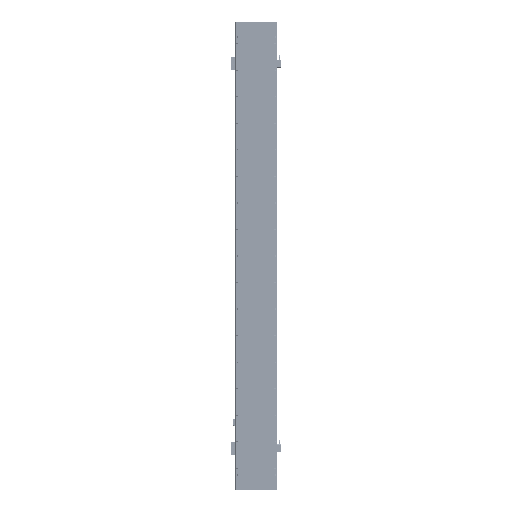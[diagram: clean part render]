
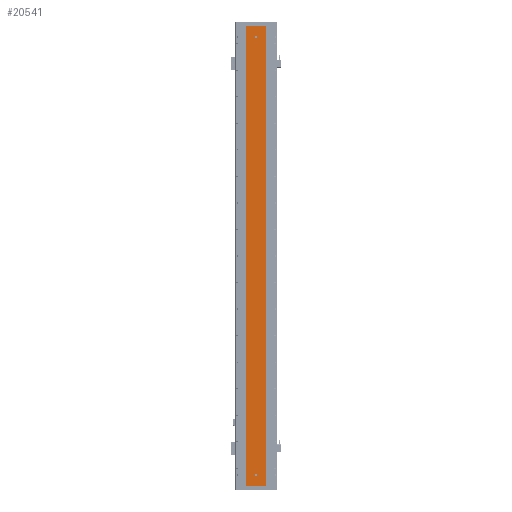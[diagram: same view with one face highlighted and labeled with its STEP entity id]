
A CAD part, front view. The second image highlights one B-rep face of the part: STEP entity #20541.
In plain terms, the highlighted planar face has unit normal (0, -1, 0).
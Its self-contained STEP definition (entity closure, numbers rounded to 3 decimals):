
#180 = VERTEX_POINT ( 'NONE', #20657 ) ;
#1358 = DIRECTION ( 'NONE',  ( 0., -1., 0. ) ) ;
#2413 = CARTESIAN_POINT ( 'NONE',  ( 45., 0., -1038. ) ) ;
#3925 = DIRECTION ( 'NONE',  ( 1., 0., 0. ) ) ;
#4166 = CARTESIAN_POINT ( 'NONE',  ( -45., 0., 1038. ) ) ;
#4543 = VERTEX_POINT ( 'NONE', #84145 ) ;
#7256 = ORIENTED_EDGE ( 'NONE', *, *, #102909, .F. ) ;
#7883 = ORIENTED_EDGE ( 'NONE', *, *, #86360, .F. ) ;
#8121 = EDGE_CURVE ( 'NONE', #31167, #180, #49314, .T. ) ;
#8909 = VECTOR ( 'NONE', #16982, 1000. ) ;
#10074 = VERTEX_POINT ( 'NONE', #98343 ) ;
#10980 = CARTESIAN_POINT ( 'NONE',  ( 4., 0., -989. ) ) ;
#12400 = FACE_BOUND ( 'NONE', #81796, .T. ) ;
#14575 = DIRECTION ( 'NONE',  ( 0., -1., 0. ) ) ;
#16982 = DIRECTION ( 'NONE',  ( 0., 0., -1. ) ) ;
#17415 = ORIENTED_EDGE ( 'NONE', *, *, #100536, .T. ) ;
#18307 = DIRECTION ( 'NONE',  ( 0., 0., 1. ) ) ;
#19812 = EDGE_CURVE ( 'NONE', #44787, #49540, #91212, .T. ) ;
#20541 = ADVANCED_FACE ( 'NONE', ( #12400, #37611, #85142 ), #118538, .F. ) ;
#20657 = CARTESIAN_POINT ( 'NONE',  ( 0., 0., 986. ) ) ;
#24625 = EDGE_LOOP ( 'NONE', ( #7883, #102009 ) ) ;
#24940 = LINE ( 'NONE', #118648, #33880 ) ;
#25305 = AXIS2_PLACEMENT_3D ( 'NONE', #99909, #118924, #62183 ) ;
#25555 = ORIENTED_EDGE ( 'NONE', *, *, #63258, .F. ) ;
#26093 = CARTESIAN_POINT ( 'NONE',  ( -45., 0., 1038. ) ) ;
#29210 = VECTOR ( 'NONE', #35549, 1000. ) ;
#30427 = CARTESIAN_POINT ( 'NONE',  ( -4., 0., -989. ) ) ;
#31167 = VERTEX_POINT ( 'NONE', #92922 ) ;
#31977 = ORIENTED_EDGE ( 'NONE', *, *, #108854, .F. ) ;
#33880 = VECTOR ( 'NONE', #61868, 1000. ) ;
#34140 = LINE ( 'NONE', #53296, #84625 ) ;
#34725 = AXIS2_PLACEMENT_3D ( 'NONE', #100296, #43481, #109831 ) ;
#35152 = CARTESIAN_POINT ( 'NONE',  ( 45., 0., -1038. ) ) ;
#35549 = DIRECTION ( 'NONE',  ( 1., 0., 0. ) ) ;
#37611 = FACE_BOUND ( 'NONE', #24625, .T. ) ;
#38060 = ORIENTED_EDGE ( 'NONE', *, *, #88011, .F. ) ;
#43481 = DIRECTION ( 'NONE',  ( 0., -1., 0. ) ) ;
#44787 = VERTEX_POINT ( 'NONE', #10980 ) ;
#49314 = CIRCLE ( 'NONE', #34725, 4. ) ;
#49540 = VERTEX_POINT ( 'NONE', #30427 ) ;
#52172 = ORIENTED_EDGE ( 'NONE', *, *, #66705, .T. ) ;
#53296 = CARTESIAN_POINT ( 'NONE',  ( -4., 0., -989. ) ) ;
#58074 = CARTESIAN_POINT ( 'NONE',  ( 0., 0., 990. ) ) ;
#60663 = DIRECTION ( 'NONE',  ( 0., -1., 0. ) ) ;
#61763 = ORIENTED_EDGE ( 'NONE', *, *, #69982, .F. ) ;
#61868 = DIRECTION ( 'NONE',  ( 1., 0., 0. ) ) ;
#62183 = DIRECTION ( 'NONE',  ( -1., 0., 0. ) ) ;
#63258 = EDGE_CURVE ( 'NONE', #10074, #4543, #70551, .T. ) ;
#66705 = EDGE_CURVE ( 'NONE', #100303, #111831, #84615, .T. ) ;
#67641 = DIRECTION ( 'NONE',  ( 0., 0., -1. ) ) ;
#69982 = EDGE_CURVE ( 'NONE', #109413, #81778, #81078, .T. ) ;
#70551 = CIRCLE ( 'NONE', #106084, 4. ) ;
#71424 = LINE ( 'NONE', #75184, #118834 ) ;
#71429 = CARTESIAN_POINT ( 'NONE',  ( 0., 0., -991. ) ) ;
#74442 = CARTESIAN_POINT ( 'NONE',  ( 45., 0., 1038. ) ) ;
#75184 = CARTESIAN_POINT ( 'NONE',  ( 4., 0., -989. ) ) ;
#78465 = ORIENTED_EDGE ( 'NONE', *, *, #19812, .F. ) ;
#80946 = DIRECTION ( 'NONE',  ( 1., 0., 0. ) ) ;
#81078 = LINE ( 'NONE', #74442, #84037 ) ;
#81778 = VERTEX_POINT ( 'NONE', #2413 ) ;
#81796 = EDGE_LOOP ( 'NONE', ( #31977, #25555, #38060, #78465 ) ) ;
#84037 = VECTOR ( 'NONE', #112070, 1000. ) ;
#84145 = CARTESIAN_POINT ( 'NONE',  ( 4., 0., -991. ) ) ;
#84615 = LINE ( 'NONE', #26093, #8909 ) ;
#84625 = VECTOR ( 'NONE', #91067, 1000. ) ;
#85142 = FACE_OUTER_BOUND ( 'NONE', #107040, .T. ) ;
#86360 = EDGE_CURVE ( 'NONE', #180, #31167, #97284, .T. ) ;
#87350 = CARTESIAN_POINT ( 'NONE',  ( -45., 0., -1038. ) ) ;
#88011 = EDGE_CURVE ( 'NONE', #49540, #10074, #34140, .T. ) ;
#91067 = DIRECTION ( 'NONE',  ( 0., 0., -1. ) ) ;
#91212 = CIRCLE ( 'NONE', #114992, 4. ) ;
#92922 = CARTESIAN_POINT ( 'NONE',  ( 0., 0., 994. ) ) ;
#97284 = CIRCLE ( 'NONE', #97385, 4. ) ;
#97385 = AXIS2_PLACEMENT_3D ( 'NONE', #58074, #1358, #67641 ) ;
#98343 = CARTESIAN_POINT ( 'NONE',  ( -4., 0., -991. ) ) ;
#99909 = CARTESIAN_POINT ( 'NONE',  ( 45., 0., 1038. ) ) ;
#100296 = CARTESIAN_POINT ( 'NONE',  ( 0., 0., 990. ) ) ;
#100303 = VERTEX_POINT ( 'NONE', #4166 ) ;
#100536 = EDGE_CURVE ( 'NONE', #111831, #81778, #107919, .T. ) ;
#101976 = CARTESIAN_POINT ( 'NONE',  ( 45., 0., 1038. ) ) ;
#102009 = ORIENTED_EDGE ( 'NONE', *, *, #8121, .F. ) ;
#102909 = EDGE_CURVE ( 'NONE', #100303, #109413, #24940, .T. ) ;
#106084 = AXIS2_PLACEMENT_3D ( 'NONE', #71429, #14575, #80946 ) ;
#107040 = EDGE_LOOP ( 'NONE', ( #17415, #61763, #7256, #52172 ) ) ;
#107919 = LINE ( 'NONE', #35152, #29210 ) ;
#108854 = EDGE_CURVE ( 'NONE', #4543, #44787, #71424, .T. ) ;
#109413 = VERTEX_POINT ( 'NONE', #101976 ) ;
#109831 = DIRECTION ( 'NONE',  ( 0., 0., -1. ) ) ;
#111831 = VERTEX_POINT ( 'NONE', #87350 ) ;
#112070 = DIRECTION ( 'NONE',  ( 0., 0., -1. ) ) ;
#114992 = AXIS2_PLACEMENT_3D ( 'NONE', #117445, #60663, #3925 ) ;
#117445 = CARTESIAN_POINT ( 'NONE',  ( 0., 0., -989. ) ) ;
#118538 = PLANE ( 'NONE',  #25305 ) ;
#118648 = CARTESIAN_POINT ( 'NONE',  ( 45., 0., 1038. ) ) ;
#118834 = VECTOR ( 'NONE', #18307, 1000. ) ;
#118924 = DIRECTION ( 'NONE',  ( 0., 1., 0. ) ) ;
